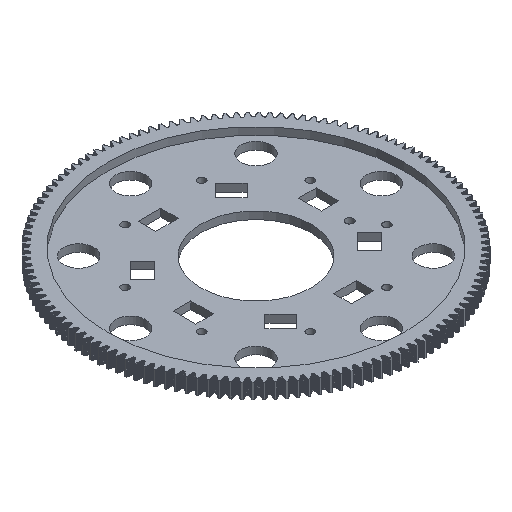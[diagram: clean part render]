
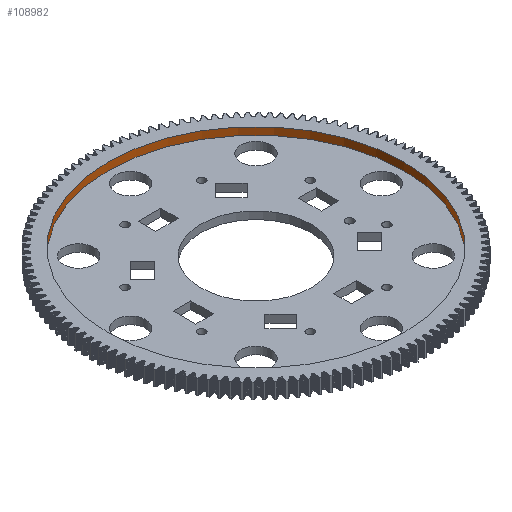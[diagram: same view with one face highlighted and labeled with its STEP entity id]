
A CAD part, isometric view. The second image highlights one B-rep face of the part: STEP entity #108982.
In plain terms, the highlighted cylindrical face has radius 59 mm (diameter 118 mm), a full revolution.
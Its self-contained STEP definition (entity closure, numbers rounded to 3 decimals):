
#52557 = EDGE_CURVE('',#52558,#52558,#52560,.T.);
#52558 = VERTEX_POINT('',#52559);
#52559 = CARTESIAN_POINT('',(124.999,65.988,6.));
#52560 = CIRCLE('',#52561,59.);
#52561 = AXIS2_PLACEMENT_3D('',#52562,#52563,#52564);
#52562 = CARTESIAN_POINT('',(65.999,65.988,6.));
#52563 = DIRECTION('',(0.,0.,1.));
#52564 = DIRECTION('',(1.,0.,0.));
#108982 = ADVANCED_FACE('',(#108983),#109002,.F.);
#108983 = FACE_BOUND('',#108984,.F.);
#108984 = EDGE_LOOP('',(#108985,#108986,#108994,#109001));
#108985 = ORIENTED_EDGE('',*,*,#52557,.F.);
#108986 = ORIENTED_EDGE('',*,*,#108987,.F.);
#108987 = EDGE_CURVE('',#108988,#52558,#108990,.T.);
#108988 = VERTEX_POINT('',#108989);
#108989 = CARTESIAN_POINT('',(124.999,65.988,3.));
#108990 = LINE('',#108991,#108992);
#108991 = CARTESIAN_POINT('',(124.999,65.988,3.));
#108992 = VECTOR('',#108993,1.);
#108993 = DIRECTION('',(0.,0.,1.));
#108994 = ORIENTED_EDGE('',*,*,#108995,.T.);
#108995 = EDGE_CURVE('',#108988,#108988,#108996,.T.);
#108996 = CIRCLE('',#108997,59.);
#108997 = AXIS2_PLACEMENT_3D('',#108998,#108999,#109000);
#108998 = CARTESIAN_POINT('',(65.999,65.988,3.));
#108999 = DIRECTION('',(0.,0.,1.));
#109000 = DIRECTION('',(1.,0.,0.));
#109001 = ORIENTED_EDGE('',*,*,#108987,.T.);
#109002 = CYLINDRICAL_SURFACE('',#109003,59.);
#109003 = AXIS2_PLACEMENT_3D('',#109004,#109005,#109006);
#109004 = CARTESIAN_POINT('',(65.999,65.988,3.));
#109005 = DIRECTION('',(0.,0.,1.));
#109006 = DIRECTION('',(1.,0.,0.));
